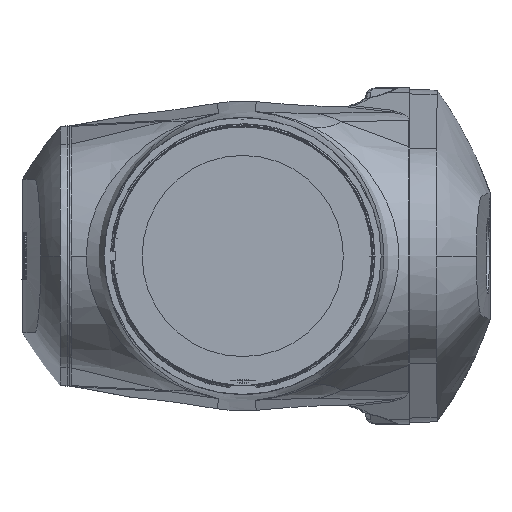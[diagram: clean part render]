
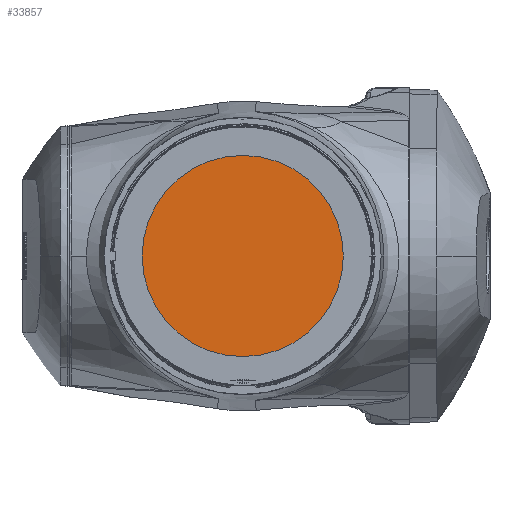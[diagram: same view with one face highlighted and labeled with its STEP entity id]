
A CAD part, left-side view. The second image highlights one B-rep face of the part: STEP entity #33857.
In plain terms, the highlighted planar face has unit normal (-1, 0, 0).
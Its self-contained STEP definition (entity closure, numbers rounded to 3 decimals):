
#272 = EDGE_CURVE ( 'NONE', #31234, #43811, #48099, .T. ) ;
#1896 = CARTESIAN_POINT ( 'NONE',  ( 197., 0., 2205. ) ) ;
#2019 = DIRECTION ( 'NONE',  ( -1., 0., 0. ) ) ;
#4713 = CIRCLE ( 'NONE', #32433, 85. ) ;
#5263 = AXIS2_PLACEMENT_3D ( 'NONE', #1896, #25253, #17056 ) ;
#5704 = AXIS2_PLACEMENT_3D ( 'NONE', #9265, #2019, #32301 ) ;
#9019 = EDGE_CURVE ( 'NONE', #43811, #31234, #4713, .T. ) ;
#9265 = CARTESIAN_POINT ( 'NONE',  ( 197., 0., 2205. ) ) ;
#10478 = DIRECTION ( 'NONE',  ( 0., -1., 0. ) ) ;
#10579 = ORIENTED_EDGE ( 'NONE', *, *, #9019, .T. ) ;
#11782 = PLANE ( 'NONE',  #5704 ) ;
#17056 = DIRECTION ( 'NONE',  ( 0., -1., 0. ) ) ;
#20974 = CARTESIAN_POINT ( 'NONE',  ( 197., -85., 2205. ) ) ;
#21957 = ORIENTED_EDGE ( 'NONE', *, *, #272, .T. ) ;
#25253 = DIRECTION ( 'NONE',  ( -1., 0., 0. ) ) ;
#26112 = CARTESIAN_POINT ( 'NONE',  ( 197., 0., 2205. ) ) ;
#31234 = VERTEX_POINT ( 'NONE', #20974 ) ;
#32301 = DIRECTION ( 'NONE',  ( 0., -1., 0. ) ) ;
#32433 = AXIS2_PLACEMENT_3D ( 'NONE', #26112, #37767, #10478 ) ;
#33857 = ADVANCED_FACE ( 'NONE', ( #45772 ), #11782, .T. ) ;
#35843 = CARTESIAN_POINT ( 'NONE',  ( 197., 85., 2205. ) ) ;
#37767 = DIRECTION ( 'NONE',  ( -1., 0., 0. ) ) ;
#43249 = EDGE_LOOP ( 'NONE', ( #21957, #10579 ) ) ;
#43811 = VERTEX_POINT ( 'NONE', #35843 ) ;
#45772 = FACE_OUTER_BOUND ( 'NONE', #43249, .T. ) ;
#48099 = CIRCLE ( 'NONE', #5263, 85. ) ;
